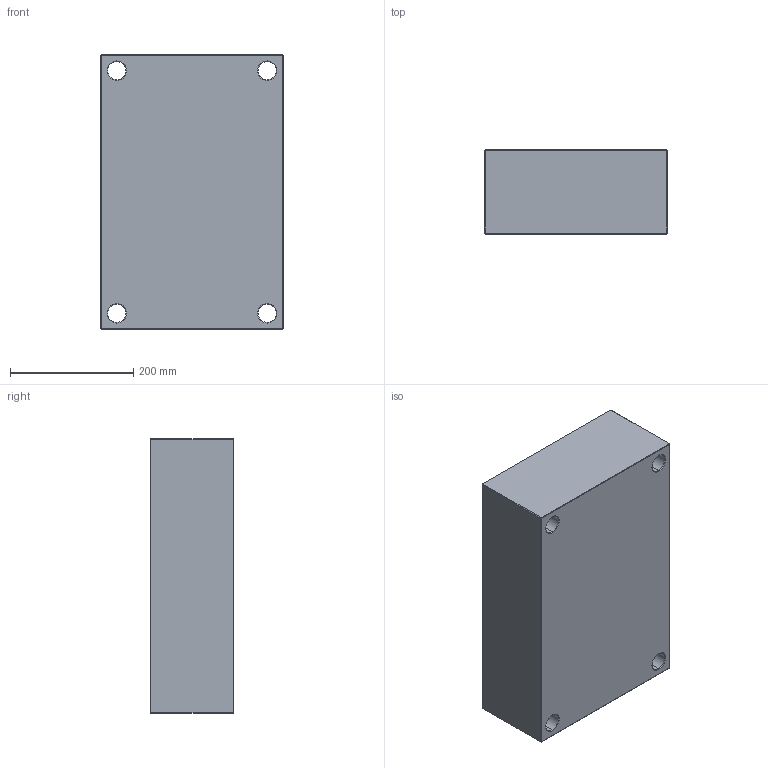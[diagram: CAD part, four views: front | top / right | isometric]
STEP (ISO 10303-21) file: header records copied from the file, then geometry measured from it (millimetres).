
FILE_DESCRIPTION (( 'STEP AP214' ), '1' );
FILE_NAME ('PCX-296x446x136.STEP', '2020-05-04T08:29:13', ( 'August' ), ( '' ), 'SwSTEP 2.0', 'SolidWorks 2018', '' );
FILE_SCHEMA (( 'AUTOMOTIVE_DESIGN' ));
Length unit declared in the file: millimetre
Products named in the file (1): PCX-296x446x136
Bounding box: 296 x 136 x 446 mm (x, y, z)
Volume: 17563222.6 mm3; surface area: 512197.6 mm2
Topology: 1 solids, 1 shells, 82 faces, 168 edges, 96 vertices
Faces by surface type: plane 34, cone 24, cylinder 24
Entity records: 2170 total; most frequent: DIRECTION 406, CARTESIAN_POINT 347, ORIENTED_EDGE 336, EDGE_CURVE 168, AXIS2_PLACEMENT_3D 155, EDGE_LOOP 98, VERTEX_POINT 96, VECTOR 96
